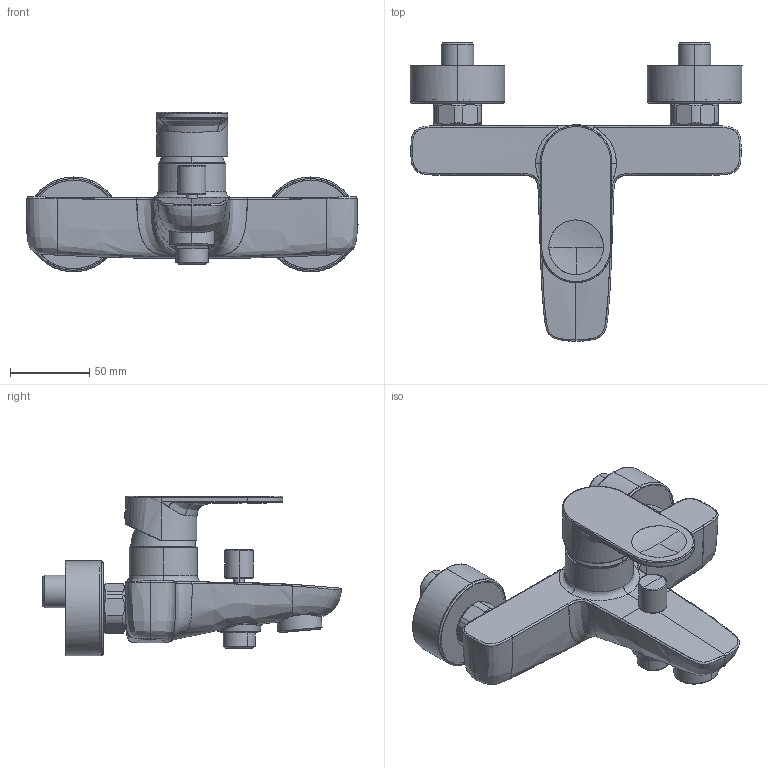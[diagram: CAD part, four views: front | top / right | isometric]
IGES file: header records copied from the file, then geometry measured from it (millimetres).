
Global section: file name: D:\01_Planungsdaten\_news19\Armaturen\B3\B35230000010_B35230000S10_nicht_fertig\3D\a.igs; native system: Rhinoceros ( Sep 13 2016 ); preprocessor: Trout Lake IGES 012 Sep 13 2016; date: 190301.084656; units: millimetre
Bounding box: 210 x 188.83 x 101.02 mm (x, y, z)
Surface area: 95835.4 mm2 (no closed solid volume)
Topology: 0 solids, 0 shells, 285 faces, 5632 edges, 5627 vertices
Faces by surface type: bspline 285
